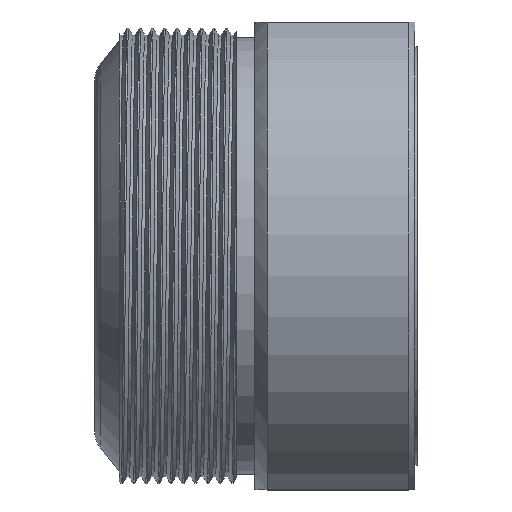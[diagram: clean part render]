
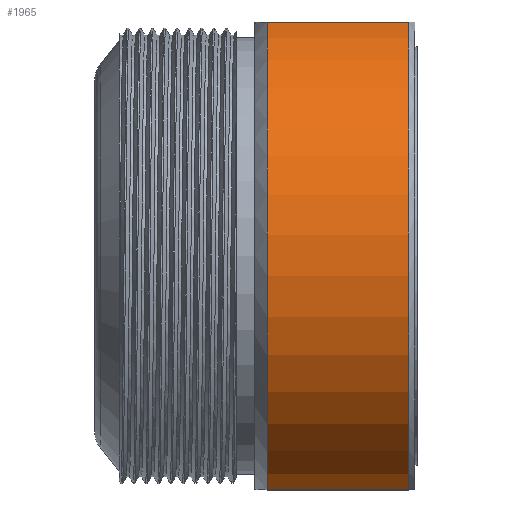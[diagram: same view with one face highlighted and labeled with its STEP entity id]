
A CAD part, top view. The second image highlights one B-rep face of the part: STEP entity #1965.
In plain terms, the highlighted cylindrical face has radius 20 mm (diameter 40 mm), a partial arc.
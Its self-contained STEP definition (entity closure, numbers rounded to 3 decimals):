
#109 = CARTESIAN_POINT ( 'NONE',  ( 0., 19., 6.245 ) ) ;
#203 = EDGE_LOOP ( 'NONE', ( #3939, #981, #3655, #1859 ) ) ;
#218 = CARTESIAN_POINT ( 'NONE',  ( -12.2, -19., 6.245 ) ) ;
#308 = DIRECTION ( 'NONE',  ( 1., 0., 0. ) ) ;
#408 = DIRECTION ( 'NONE',  ( -1., 0., 0. ) ) ;
#411 = EDGE_CURVE ( 'NONE', #3285, #688, #1306, .T. ) ;
#453 = DIRECTION ( 'NONE',  ( 1., 0., 0. ) ) ;
#518 = EDGE_CURVE ( 'NONE', #3285, #2868, #4053, .T. ) ;
#688 = VERTEX_POINT ( 'NONE', #218 ) ;
#704 = DIRECTION ( 'NONE',  ( 0., 0., -1. ) ) ;
#740 = CARTESIAN_POINT ( 'NONE',  ( -0.7, -19., 6.245 ) ) ;
#758 = DIRECTION ( 'NONE',  ( 0., 0., 1. ) ) ;
#786 = CARTESIAN_POINT ( 'NONE',  ( 0., -19., 6.245 ) ) ;
#981 = ORIENTED_EDGE ( 'NONE', *, *, #2222, .T. ) ;
#1177 = AXIS2_PLACEMENT_3D ( 'NONE', #3908, #308, #704 ) ;
#1233 = AXIS2_PLACEMENT_3D ( 'NONE', #2088, #2430, #758 ) ;
#1306 = CIRCLE ( 'NONE', #1233, 20. ) ;
#1446 = VECTOR ( 'NONE', #2740, 1000. ) ;
#1540 = EDGE_CURVE ( 'NONE', #3863, #688, #1732, .T. ) ;
#1732 = LINE ( 'NONE', #786, #1446 ) ;
#1859 = ORIENTED_EDGE ( 'NONE', *, *, #411, .T. ) ;
#1965 = ADVANCED_FACE ( 'NONE', ( #3242 ), #4233, .T. ) ;
#2088 = CARTESIAN_POINT ( 'NONE',  ( -12.2, 0., 0. ) ) ;
#2222 = EDGE_CURVE ( 'NONE', #3863, #2868, #2752, .T. ) ;
#2430 = DIRECTION ( 'NONE',  ( 1., 0., 0. ) ) ;
#2533 = VECTOR ( 'NONE', #453, 1000. ) ;
#2648 = CARTESIAN_POINT ( 'NONE',  ( -0.7, 0., 0. ) ) ;
#2740 = DIRECTION ( 'NONE',  ( -1., 0., 0. ) ) ;
#2752 = CIRCLE ( 'NONE', #3649, 20. ) ;
#2868 = VERTEX_POINT ( 'NONE', #2923 ) ;
#2923 = CARTESIAN_POINT ( 'NONE',  ( -0.7, 19., 6.245 ) ) ;
#3242 = FACE_OUTER_BOUND ( 'NONE', #203, .T. ) ;
#3285 = VERTEX_POINT ( 'NONE', #4125 ) ;
#3649 = AXIS2_PLACEMENT_3D ( 'NONE', #2648, #408, #3687 ) ;
#3655 = ORIENTED_EDGE ( 'NONE', *, *, #518, .F. ) ;
#3687 = DIRECTION ( 'NONE',  ( 0., 0., -1. ) ) ;
#3863 = VERTEX_POINT ( 'NONE', #740 ) ;
#3908 = CARTESIAN_POINT ( 'NONE',  ( 0., 0., 0. ) ) ;
#3939 = ORIENTED_EDGE ( 'NONE', *, *, #1540, .F. ) ;
#4053 = LINE ( 'NONE', #109, #2533 ) ;
#4125 = CARTESIAN_POINT ( 'NONE',  ( -12.2, 19., 6.245 ) ) ;
#4233 = CYLINDRICAL_SURFACE ( 'NONE', #1177, 20. ) ;
